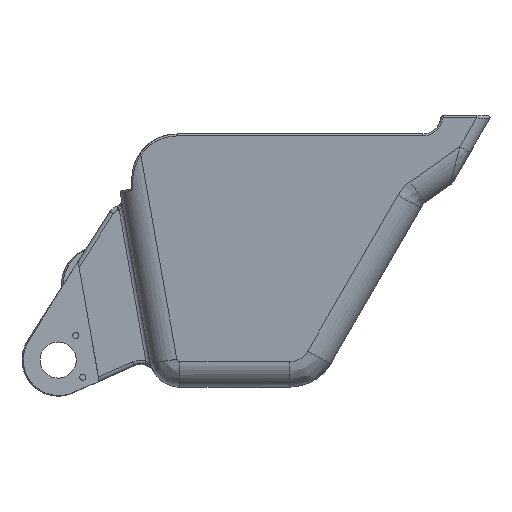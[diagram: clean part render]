
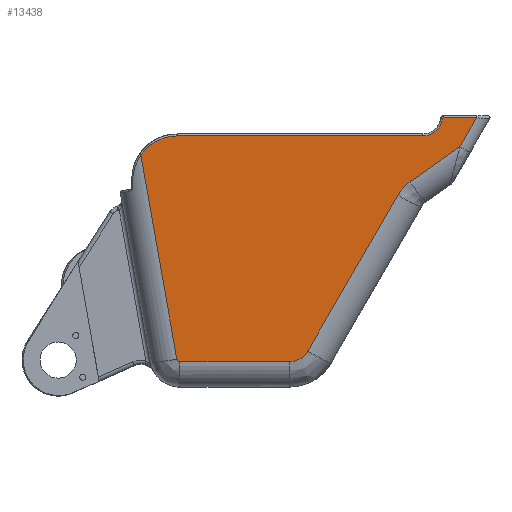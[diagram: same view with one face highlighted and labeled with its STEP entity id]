
A CAD part, left-side view. The second image highlights one B-rep face of the part: STEP entity #13438.
In plain terms, the highlighted planar face has unit normal (-0.998, 0, -0.061).
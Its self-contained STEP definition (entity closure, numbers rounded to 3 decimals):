
#11415=CARTESIAN_POINT('Line Origine',(-721.64,-416.456,401.817)) ;
#11419=CARTESIAN_POINT('Vertex',(-721.64,-639.641,401.817)) ;
#11421=CARTESIAN_POINT('Vertex',(-721.64,-694.448,401.817)) ;
#13324=CARTESIAN_POINT('Axis2P3D Location',(-720.,-197.39,375.)) ;
#13330=CARTESIAN_POINT('Control Point',(-717.836,-137.391,339.618)) ;
#13331=CARTESIAN_POINT('Control Point',(-697.149,-197.031,1.385)) ;
#13332=CARTESIAN_POINT('Vertex',(-717.836,-137.391,339.618)) ;
#13334=CARTESIAN_POINT('Vertex',(-697.149,-197.031,1.385)) ;
#13338=CARTESIAN_POINT('Control Point',(-697.149,-197.031,1.385)) ;
#13339=CARTESIAN_POINT('Control Point',(-697.065,-197.273,0.01)) ;
#13340=CARTESIAN_POINT('Control Point',(-696.986,-197.995,-1.283)) ;
#13341=CARTESIAN_POINT('Control Point',(-696.926,-199.162,-2.26)) ;
#13342=CARTESIAN_POINT('Control Point',(-696.896,-200.558,-2.747)) ;
#13343=CARTESIAN_POINT('Control Point',(-696.896,-201.955,-2.747)) ;
#13344=CARTESIAN_POINT('Vertex',(-696.896,-201.955,-2.747)) ;
#13347=CARTESIAN_POINT('Line Origine',(-696.896,-410.684,-2.747)) ;
#13351=CARTESIAN_POINT('Vertex',(-696.896,-383.812,-2.747)) ;
#13355=CARTESIAN_POINT('Control Point',(-696.896,-383.812,-2.747)) ;
#13356=CARTESIAN_POINT('Control Point',(-696.896,-391.143,-2.747)) ;
#13357=CARTESIAN_POINT('Control Point',(-697.013,-398.475,-0.83)) ;
#13358=CARTESIAN_POINT('Control Point',(-697.249,-405.136,3.018)) ;
#13359=CARTESIAN_POINT('Control Point',(-697.578,-410.459,8.406)) ;
#13360=CARTESIAN_POINT('Control Point',(-697.966,-414.123,14.753)) ;
#13361=CARTESIAN_POINT('Vertex',(-697.966,-414.123,14.753)) ;
#13365=CARTESIAN_POINT('Control Point',(-697.966,-414.123,14.753)) ;
#13366=CARTESIAN_POINT('Control Point',(-713.788,-563.476,273.44)) ;
#13367=CARTESIAN_POINT('Vertex',(-713.788,-563.476,273.44)) ;
#13371=CARTESIAN_POINT('Control Point',(-715.155,-583.947,295.78)) ;
#13372=CARTESIAN_POINT('Control Point',(-714.887,-577.688,291.398)) ;
#13373=CARTESIAN_POINT('Control Point',(-714.563,-572.069,286.105)) ;
#13374=CARTESIAN_POINT('Control Point',(-714.192,-567.291,280.048)) ;
#13375=CARTESIAN_POINT('Control Point',(-713.788,-563.476,273.44)) ;
#13376=CARTESIAN_POINT('Vertex',(-715.155,-583.947,295.78)) ;
#13380=CARTESIAN_POINT('Control Point',(-715.155,-583.947,295.78)) ;
#13381=CARTESIAN_POINT('Control Point',(-718.697,-666.67,353.703)) ;
#13382=CARTESIAN_POINT('Vertex',(-718.697,-666.67,353.703)) ;
#13386=CARTESIAN_POINT('Control Point',(-721.64,-694.448,401.817)) ;
#13387=CARTESIAN_POINT('Control Point',(-718.697,-666.67,353.703)) ;
#13390=CARTESIAN_POINT('Control Point',(-721.535,-637.662,400.103)) ;
#13391=CARTESIAN_POINT('Control Point',(-721.579,-637.763,400.809)) ;
#13392=CARTESIAN_POINT('Control Point',(-721.619,-638.207,401.473)) ;
#13393=CARTESIAN_POINT('Control Point',(-721.64,-638.927,401.817)) ;
#13394=CARTESIAN_POINT('Control Point',(-721.64,-639.641,401.817)) ;
#13395=CARTESIAN_POINT('Vertex',(-721.535,-637.662,400.103)) ;
#13399=CARTESIAN_POINT('Control Point',(-721.535,-637.662,400.103)) ;
#13400=CARTESIAN_POINT('Control Point',(-720.966,-636.317,390.788)) ;
#13401=CARTESIAN_POINT('Control Point',(-720.425,-631.659,381.946)) ;
#13402=CARTESIAN_POINT('Control Point',(-720.011,-623.866,375.179)) ;
#13403=CARTESIAN_POINT('Control Point',(-719.805,-614.43,371.817)) ;
#13404=CARTESIAN_POINT('Control Point',(-719.805,-605.,371.817)) ;
#13405=CARTESIAN_POINT('Vertex',(-719.805,-605.,371.817)) ;
#13408=CARTESIAN_POINT('Line Origine',(-719.805,-410.684,371.817)) ;
#13412=CARTESIAN_POINT('Vertex',(-719.805,-197.39,371.817)) ;
#13416=CARTESIAN_POINT('Control Point',(-717.836,-137.391,339.618)) ;
#13417=CARTESIAN_POINT('Control Point',(-718.558,-145.227,351.43)) ;
#13418=CARTESIAN_POINT('Control Point',(-719.163,-155.97,361.32)) ;
#13419=CARTESIAN_POINT('Control Point',(-719.592,-169.005,368.322)) ;
#13420=CARTESIAN_POINT('Control Point',(-719.805,-183.198,371.817)) ;
#13421=CARTESIAN_POINT('Control Point',(-719.805,-197.39,371.817)) ;
#11417=VECTOR('Line Direction',#11416,1.) ;
#13349=VECTOR('Line Direction',#13348,1.) ;
#13410=VECTOR('Line Direction',#13409,1.) ;
#11416=DIRECTION('Vector Direction',(0.,1.,0.)) ;
#13325=DIRECTION('Axis2P3D Direction',(-0.998,-0.,-0.061)) ;
#13326=DIRECTION('Axis2P3D XDirection',(0.,-1.,0.)) ;
#13348=DIRECTION('Vector Direction',(0.,-1.,0.)) ;
#13409=DIRECTION('Vector Direction',(0.,-1.,0.)) ;
#13327=AXIS2_PLACEMENT_3D('Plane Axis2P3D',#13324,#13325,#13326) ;
#11418=LINE('Line',#11415,#11417) ;
#13350=LINE('Line',#13347,#13349) ;
#13411=LINE('Line',#13408,#13410) ;
#13328=PLANE('',#13327) ;
#11423=EDGE_CURVE('',#11420,#11422,#11418,.F.) ;
#13336=EDGE_CURVE('',#13333,#13335,#13329,.T.) ;
#13346=EDGE_CURVE('',#13335,#13345,#13337,.T.) ;
#13353=EDGE_CURVE('',#13345,#13352,#13350,.T.) ;
#13363=EDGE_CURVE('',#13352,#13362,#13354,.T.) ;
#13369=EDGE_CURVE('',#13362,#13368,#13364,.T.) ;
#13378=EDGE_CURVE('',#13368,#13377,#13370,.F.) ;
#13384=EDGE_CURVE('',#13377,#13383,#13379,.T.) ;
#13388=EDGE_CURVE('',#13383,#11422,#13385,.F.) ;
#13397=EDGE_CURVE('',#13396,#11420,#13389,.T.) ;
#13407=EDGE_CURVE('',#13406,#13396,#13398,.F.) ;
#13414=EDGE_CURVE('',#13413,#13406,#13411,.T.) ;
#13422=EDGE_CURVE('',#13333,#13413,#13415,.T.) ;
#13423=EDGE_LOOP('',(#13424,#13425,#13426,#13427,#13428,#13429,#13430,#13431,#13432,#13433,#13434,#13435,#13436)) ;
#13424=ORIENTED_EDGE('',*,*,#13336,.T.) ;
#13425=ORIENTED_EDGE('',*,*,#13346,.T.) ;
#13426=ORIENTED_EDGE('',*,*,#13353,.T.) ;
#13427=ORIENTED_EDGE('',*,*,#13363,.T.) ;
#13428=ORIENTED_EDGE('',*,*,#13369,.T.) ;
#13429=ORIENTED_EDGE('',*,*,#13378,.T.) ;
#13430=ORIENTED_EDGE('',*,*,#13384,.T.) ;
#13431=ORIENTED_EDGE('',*,*,#13388,.T.) ;
#13432=ORIENTED_EDGE('',*,*,#11423,.F.) ;
#13433=ORIENTED_EDGE('',*,*,#13397,.F.) ;
#13434=ORIENTED_EDGE('',*,*,#13407,.F.) ;
#13435=ORIENTED_EDGE('',*,*,#13414,.F.) ;
#13436=ORIENTED_EDGE('',*,*,#13422,.F.) ;
#11420=VERTEX_POINT('',#11419) ;
#11422=VERTEX_POINT('',#11421) ;
#13333=VERTEX_POINT('',#13332) ;
#13335=VERTEX_POINT('',#13334) ;
#13345=VERTEX_POINT('',#13344) ;
#13352=VERTEX_POINT('',#13351) ;
#13362=VERTEX_POINT('',#13361) ;
#13368=VERTEX_POINT('',#13367) ;
#13377=VERTEX_POINT('',#13376) ;
#13383=VERTEX_POINT('',#13382) ;
#13396=VERTEX_POINT('',#13395) ;
#13406=VERTEX_POINT('',#13405) ;
#13413=VERTEX_POINT('',#13412) ;
#13438=ADVANCED_FACE('PartBody',(#13437),#13328,.T.) ;
#13329=B_SPLINE_CURVE_WITH_KNOTS('',1,(#13330,#13331),.UNSPECIFIED.,.F.,.U.,(2,2),(-162.913,181.162),.UNSPECIFIED.) ;
#13337=B_SPLINE_CURVE_WITH_KNOTS('',5,(#13338,#13339,#13340,#13341,#13342,#13343),.UNSPECIFIED.,.F.,.U.,(6,6),(122.808,192.986),.UNSPECIFIED.) ;
#13354=B_SPLINE_CURVE_WITH_KNOTS('',5,(#13355,#13356,#13357,#13358,#13359,#13360),.UNSPECIFIED.,.F.,.U.,(6,6),(228.705,320.172),.UNSPECIFIED.) ;
#13364=B_SPLINE_CURVE_WITH_KNOTS('',1,(#13365,#13366),.UNSPECIFIED.,.F.,.U.,(2,2),(-190.467,108.658),.UNSPECIFIED.) ;
#13370=B_SPLINE_CURVE_WITH_KNOTS('',4,(#13371,#13372,#13373,#13374,#13375),.UNSPECIFIED.,.F.,.U.,(5,5),(217.664,250.155),.UNSPECIFIED.) ;
#13379=B_SPLINE_CURVE_WITH_KNOTS('',1,(#13380,#13381),.UNSPECIFIED.,.F.,.U.,(2,2),(211.645,312.693),.UNSPECIFIED.) ;
#13385=B_SPLINE_CURVE_WITH_KNOTS('',1,(#13386,#13387),.UNSPECIFIED.,.F.,.U.,(2,2),(-232.603,-176.969),.UNSPECIFIED.) ;
#13389=B_SPLINE_CURVE_WITH_KNOTS('',4,(#13390,#13391,#13392,#13393,#13394),.UNSPECIFIED.,.F.,.U.,(5,5),(13.081,20.772),.UNSPECIFIED.) ;
#13398=B_SPLINE_CURVE_WITH_KNOTS('',5,(#13399,#13400,#13401,#13402,#13403,#13404),.UNSPECIFIED.,.F.,.U.,(6,6),(111.574,175.295),.UNSPECIFIED.) ;
#13415=B_SPLINE_CURVE_WITH_KNOTS('',5,(#13416,#13417,#13418,#13419,#13420,#13421),.UNSPECIFIED.,.F.,.U.,(6,6),(306.134,408.599),.UNSPECIFIED.) ;
#13437=FACE_OUTER_BOUND('',#13423,.T.) ;
